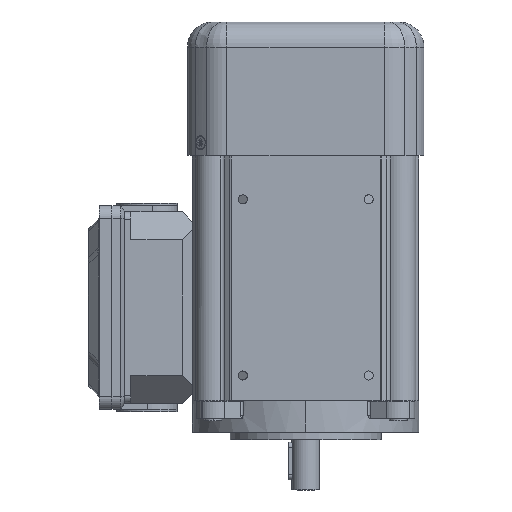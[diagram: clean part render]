
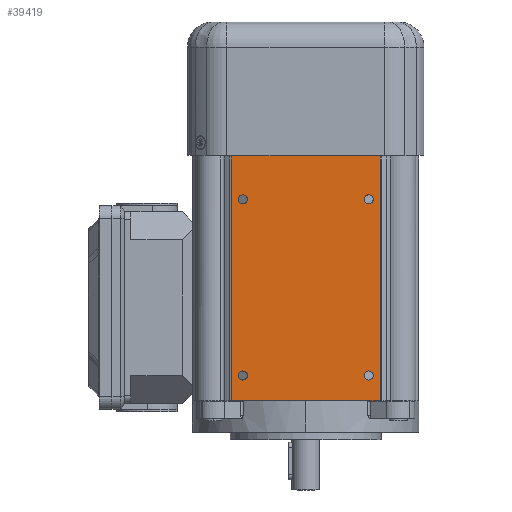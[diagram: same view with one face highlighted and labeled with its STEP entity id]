
A CAD part, front view. The second image highlights one B-rep face of the part: STEP entity #39419.
In plain terms, the highlighted planar face has unit normal (0, -1, 0).
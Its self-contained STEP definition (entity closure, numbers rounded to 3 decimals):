
#748 = AXIS2_PLACEMENT_3D ( 'NONE', #27221, #11178, #33086 ) ;
#967 = FACE_BOUND ( 'NONE', #6506, .T. ) ;
#1347 = DIRECTION ( 'NONE',  ( 0., 0., 1. ) ) ;
#1461 = DIRECTION ( 'NONE',  ( 0., -1., 0. ) ) ;
#2310 = CARTESIAN_POINT ( 'NONE',  ( 25., -45., 80. ) ) ;
#2448 = DIRECTION ( 'NONE',  ( 0., 0., -1. ) ) ;
#2994 = CIRCLE ( 'NONE', #48770, 1.8 ) ;
#3735 = DIRECTION ( 'NONE',  ( 0., 0., -1. ) ) ;
#4751 = VECTOR ( 'NONE', #44782, 1000. ) ;
#4763 = DIRECTION ( 'NONE',  ( 0., -1., 0. ) ) ;
#4895 = ORIENTED_EDGE ( 'NONE', *, *, #52729, .F. ) ;
#4925 = CARTESIAN_POINT ( 'NONE',  ( -29.547, -45., 110. ) ) ;
#5345 = CARTESIAN_POINT ( 'NONE',  ( -25., -45., 10. ) ) ;
#6129 = ORIENTED_EDGE ( 'NONE', *, *, #21481, .F. ) ;
#6381 = AXIS2_PLACEMENT_3D ( 'NONE', #26660, #17624, #34540 ) ;
#6506 = EDGE_LOOP ( 'NONE', ( #19651, #18015 ) ) ;
#7124 = CARTESIAN_POINT ( 'NONE',  ( -44., -45., 110. ) ) ;
#7610 = ORIENTED_EDGE ( 'NONE', *, *, #54616, .F. ) ;
#7860 = AXIS2_PLACEMENT_3D ( 'NONE', #50232, #40957, #2448 ) ;
#8828 = VECTOR ( 'NONE', #47229, 1000. ) ;
#9021 = ORIENTED_EDGE ( 'NONE', *, *, #54136, .F. ) ;
#10107 = CIRCLE ( 'NONE', #32562, 1.8 ) ;
#10414 = LINE ( 'NONE', #39887, #33435 ) ;
#11178 = DIRECTION ( 'NONE',  ( 0., -1., 0. ) ) ;
#11367 = DIRECTION ( 'NONE',  ( 0., 0., -1. ) ) ;
#11369 = LINE ( 'NONE', #7124, #4751 ) ;
#11900 = VERTEX_POINT ( 'NONE', #21893 ) ;
#11908 = DIRECTION ( 'NONE',  ( 0., 0., -1. ) ) ;
#12463 = VERTEX_POINT ( 'NONE', #22177 ) ;
#12494 = CIRCLE ( 'NONE', #53780, 1.8 ) ;
#13262 = ORIENTED_EDGE ( 'NONE', *, *, #53441, .F. ) ;
#13666 = FACE_BOUND ( 'NONE', #35797, .T. ) ;
#13930 = FACE_BOUND ( 'NONE', #45302, .T. ) ;
#14060 = DIRECTION ( 'NONE',  ( 0., 0., -1. ) ) ;
#16477 = CIRCLE ( 'NONE', #44330, 1.8 ) ;
#16598 = LINE ( 'NONE', #29571, #8828 ) ;
#17085 = CIRCLE ( 'NONE', #55698, 1.8 ) ;
#17615 = VERTEX_POINT ( 'NONE', #40029 ) ;
#17624 = DIRECTION ( 'NONE',  ( 0., -1., 0. ) ) ;
#18015 = ORIENTED_EDGE ( 'NONE', *, *, #42936, .F. ) ;
#18086 = VECTOR ( 'NONE', #54906, 1000. ) ;
#18664 = DIRECTION ( 'NONE',  ( 0., 0., -1. ) ) ;
#19651 = ORIENTED_EDGE ( 'NONE', *, *, #48924, .F. ) ;
#21481 = EDGE_CURVE ( 'NONE', #37829, #28209, #10414, .T. ) ;
#21893 = CARTESIAN_POINT ( 'NONE',  ( -25., -45., 78.2 ) ) ;
#22101 = VECTOR ( 'NONE', #11908, 1000. ) ;
#22177 = CARTESIAN_POINT ( 'NONE',  ( 29.547, -45., 110. ) ) ;
#22536 = DIRECTION ( 'NONE',  ( 0., -1., 0. ) ) ;
#22948 = PLANE ( 'NONE',  #48941 ) ;
#23281 = CARTESIAN_POINT ( 'NONE',  ( 0., -45., 0. ) ) ;
#25128 = VERTEX_POINT ( 'NONE', #39159 ) ;
#26418 = VERTEX_POINT ( 'NONE', #26820 ) ;
#26634 = FACE_OUTER_BOUND ( 'NONE', #37527, .T. ) ;
#26660 = CARTESIAN_POINT ( 'NONE',  ( -25., -45., 80. ) ) ;
#26820 = CARTESIAN_POINT ( 'NONE',  ( 25., -45., 11.8 ) ) ;
#26846 = VERTEX_POINT ( 'NONE', #44394 ) ;
#27221 = CARTESIAN_POINT ( 'NONE',  ( 25., -45., 10. ) ) ;
#27964 = CARTESIAN_POINT ( 'NONE',  ( -25., -45., 10. ) ) ;
#28209 = VERTEX_POINT ( 'NONE', #37052 ) ;
#28568 = EDGE_CURVE ( 'NONE', #12463, #17615, #41374, .T. ) ;
#28914 = CIRCLE ( 'NONE', #6381, 1.8 ) ;
#29443 = CIRCLE ( 'NONE', #7860, 1.8 ) ;
#29571 = CARTESIAN_POINT ( 'NONE',  ( -29.547, -45., 0. ) ) ;
#29853 = ORIENTED_EDGE ( 'NONE', *, *, #44190, .F. ) ;
#30208 = ORIENTED_EDGE ( 'NONE', *, *, #33245, .T. ) ;
#32562 = AXIS2_PLACEMENT_3D ( 'NONE', #27964, #49562, #11367 ) ;
#33086 = DIRECTION ( 'NONE',  ( 0., 0., -1. ) ) ;
#33245 = EDGE_CURVE ( 'NONE', #37829, #37631, #42533, .T. ) ;
#33435 = VECTOR ( 'NONE', #1347, 1000. ) ;
#33473 = DIRECTION ( 'NONE',  ( 0., 0., -1. ) ) ;
#34323 = EDGE_CURVE ( 'NONE', #52032, #34861, #2994, .T. ) ;
#34540 = DIRECTION ( 'NONE',  ( 0., 0., -1. ) ) ;
#34861 = VERTEX_POINT ( 'NONE', #39766 ) ;
#34925 = CIRCLE ( 'NONE', #748, 1.8 ) ;
#35797 = EDGE_LOOP ( 'NONE', ( #29853, #55684 ) ) ;
#36514 = CARTESIAN_POINT ( 'NONE',  ( -25., -45., 11.8 ) ) ;
#37052 = CARTESIAN_POINT ( 'NONE',  ( -29.547, -45., 110. ) ) ;
#37527 = EDGE_LOOP ( 'NONE', ( #6129, #30208, #7610, #47517, #13262 ) ) ;
#37631 = VERTEX_POINT ( 'NONE', #23281 ) ;
#37829 = VERTEX_POINT ( 'NONE', #48490 ) ;
#38937 = EDGE_CURVE ( 'NONE', #25128, #51970, #17085, .T. ) ;
#39062 = CARTESIAN_POINT ( 'NONE',  ( 25., -45., 80. ) ) ;
#39159 = CARTESIAN_POINT ( 'NONE',  ( -25., -45., 8.2 ) ) ;
#39419 = ADVANCED_FACE ( 'NONE', ( #13930, #13666, #967, #43178, #26634 ), #22948, .F. ) ;
#39504 = DIRECTION ( 'NONE',  ( 0., 1., 0. ) ) ;
#39766 = CARTESIAN_POINT ( 'NONE',  ( 25., -45., 78.2 ) ) ;
#39830 = CARTESIAN_POINT ( 'NONE',  ( -25., -45., 81.8 ) ) ;
#39887 = CARTESIAN_POINT ( 'NONE',  ( -29.547, -45., 110. ) ) ;
#40029 = CARTESIAN_POINT ( 'NONE',  ( 29.547, -45., 0. ) ) ;
#40444 = ORIENTED_EDGE ( 'NONE', *, *, #51261, .F. ) ;
#40957 = DIRECTION ( 'NONE',  ( 0., -1., 0. ) ) ;
#41374 = LINE ( 'NONE', #54582, #22101 ) ;
#42533 = LINE ( 'NONE', #46754, #18086 ) ;
#42936 = EDGE_CURVE ( 'NONE', #26418, #26846, #34925, .T. ) ;
#42962 = EDGE_LOOP ( 'NONE', ( #53105, #4895 ) ) ;
#43178 = FACE_BOUND ( 'NONE', #42962, .T. ) ;
#44190 = EDGE_CURVE ( 'NONE', #34861, #52032, #12494, .T. ) ;
#44330 = AXIS2_PLACEMENT_3D ( 'NONE', #50003, #54508, #33473 ) ;
#44361 = CARTESIAN_POINT ( 'NONE',  ( 25., -45., 81.8 ) ) ;
#44394 = CARTESIAN_POINT ( 'NONE',  ( 25., -45., 8.2 ) ) ;
#44782 = DIRECTION ( 'NONE',  ( 1., 0., 0. ) ) ;
#45302 = EDGE_LOOP ( 'NONE', ( #9021, #40444 ) ) ;
#46754 = CARTESIAN_POINT ( 'NONE',  ( -44., -45., 0. ) ) ;
#47229 = DIRECTION ( 'NONE',  ( -1., 0., 0. ) ) ;
#47517 = ORIENTED_EDGE ( 'NONE', *, *, #28568, .F. ) ;
#47957 = DIRECTION ( 'NONE',  ( -1., 0., 0. ) ) ;
#48490 = CARTESIAN_POINT ( 'NONE',  ( -29.547, -45., 0. ) ) ;
#48770 = AXIS2_PLACEMENT_3D ( 'NONE', #39062, #4763, #3735 ) ;
#48924 = EDGE_CURVE ( 'NONE', #26846, #26418, #16477, .T. ) ;
#48941 = AXIS2_PLACEMENT_3D ( 'NONE', #4925, #39504, #47957 ) ;
#49140 = VERTEX_POINT ( 'NONE', #39830 ) ;
#49562 = DIRECTION ( 'NONE',  ( 0., -1., 0. ) ) ;
#50003 = CARTESIAN_POINT ( 'NONE',  ( 25., -45., 10. ) ) ;
#50232 = CARTESIAN_POINT ( 'NONE',  ( -25., -45., 80. ) ) ;
#51261 = EDGE_CURVE ( 'NONE', #49140, #11900, #29443, .T. ) ;
#51970 = VERTEX_POINT ( 'NONE', #36514 ) ;
#52032 = VERTEX_POINT ( 'NONE', #44361 ) ;
#52729 = EDGE_CURVE ( 'NONE', #51970, #25128, #10107, .T. ) ;
#53105 = ORIENTED_EDGE ( 'NONE', *, *, #38937, .F. ) ;
#53441 = EDGE_CURVE ( 'NONE', #28209, #12463, #11369, .T. ) ;
#53780 = AXIS2_PLACEMENT_3D ( 'NONE', #2310, #1461, #18664 ) ;
#54136 = EDGE_CURVE ( 'NONE', #11900, #49140, #28914, .T. ) ;
#54508 = DIRECTION ( 'NONE',  ( 0., -1., 0. ) ) ;
#54582 = CARTESIAN_POINT ( 'NONE',  ( 29.547, -45., 110. ) ) ;
#54616 = EDGE_CURVE ( 'NONE', #17615, #37631, #16598, .T. ) ;
#54906 = DIRECTION ( 'NONE',  ( 1., 0., 0. ) ) ;
#55684 = ORIENTED_EDGE ( 'NONE', *, *, #34323, .F. ) ;
#55698 = AXIS2_PLACEMENT_3D ( 'NONE', #5345, #22536, #14060 ) ;
